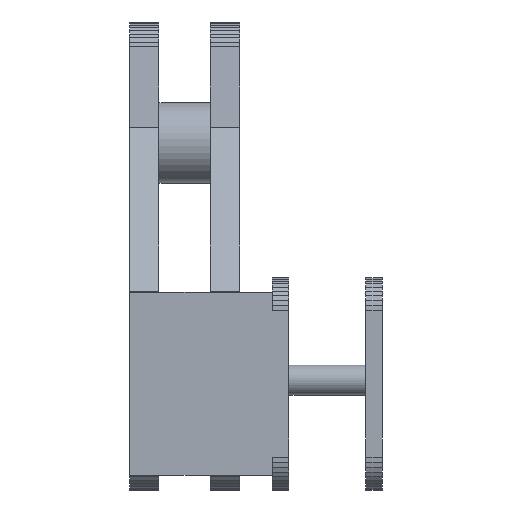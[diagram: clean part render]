
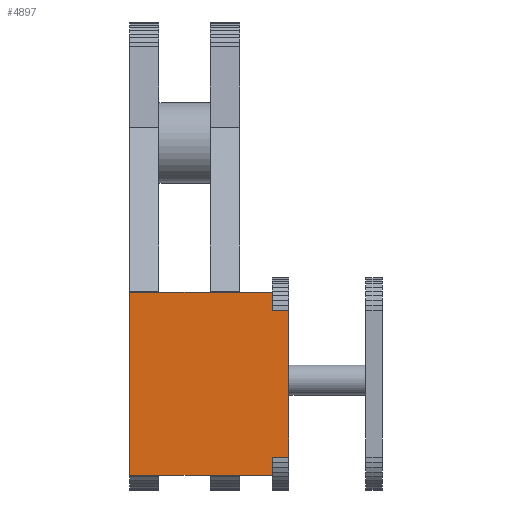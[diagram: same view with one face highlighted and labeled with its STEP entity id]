
A CAD part, left-side view. The second image highlights one B-rep face of the part: STEP entity #4897.
In plain terms, the highlighted planar face has unit normal (-1, 0, 0).
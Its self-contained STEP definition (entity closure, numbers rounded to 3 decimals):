
#3528 = PLANE('',#3529);
#3529 = AXIS2_PLACEMENT_3D('',#3530,#3531,#3532);
#3530 = CARTESIAN_POINT('',(24.,55.7,-235.848));
#3531 = DIRECTION('',(-0.,-1.,-0.));
#3532 = DIRECTION('',(0.,0.,-1.));
#3653 = EDGE_CURVE('',#3654,#3656,#3658,.T.);
#3654 = VERTEX_POINT('',#3655);
#3655 = CARTESIAN_POINT('',(15.,55.7,-215.848));
#3656 = VERTEX_POINT('',#3657);
#3657 = CARTESIAN_POINT('',(15.,55.7,-255.848));
#3658 = SURFACE_CURVE('',#3659,(#3663,#3670),.PCURVE_S1.);
#3659 = LINE('',#3660,#3661);
#3660 = CARTESIAN_POINT('',(15.,55.7,-215.848));
#3661 = VECTOR('',#3662,1.);
#3662 = DIRECTION('',(0.,0.,-1.));
#3663 = PCURVE('',#3528,#3664);
#3664 = DEFINITIONAL_REPRESENTATION('',(#3665),#3669);
#3665 = LINE('',#3666,#3667);
#3666 = CARTESIAN_POINT('',(-20.,-9.));
#3667 = VECTOR('',#3668,1.);
#3668 = DIRECTION('',(1.,0.));
#3669 = ( GEOMETRIC_REPRESENTATION_CONTEXT(2) 
PARAMETRIC_REPRESENTATION_CONTEXT() REPRESENTATION_CONTEXT('2D SPACE',''
  ) );
#3670 = PCURVE('',#3671,#3676);
#3671 = PLANE('',#3672);
#3672 = AXIS2_PLACEMENT_3D('',#3673,#3674,#3675);
#3673 = CARTESIAN_POINT('',(15.,60.2,-215.848));
#3674 = DIRECTION('',(1.,0.,0.));
#3675 = DIRECTION('',(0.,0.,-1.));
#3676 = DEFINITIONAL_REPRESENTATION('',(#3677),#3681);
#3677 = LINE('',#3678,#3679);
#3678 = CARTESIAN_POINT('',(0.,-4.5));
#3679 = VECTOR('',#3680,1.);
#3680 = DIRECTION('',(1.,0.));
#3681 = ( GEOMETRIC_REPRESENTATION_CONTEXT(2) 
PARAMETRIC_REPRESENTATION_CONTEXT() REPRESENTATION_CONTEXT('2D SPACE',''
  ) );
#3699 = PLANE('',#3700);
#3700 = AXIS2_PLACEMENT_3D('',#3701,#3702,#3703);
#3701 = CARTESIAN_POINT('',(15.,60.2,-255.848));
#3702 = DIRECTION('',(0.997,0.,0.078));
#3703 = DIRECTION('',(0.078,0.,-0.997));
#4817 = PLANE('',#4818);
#4818 = AXIS2_PLACEMENT_3D('',#4819,#4820,#4821);
#4819 = CARTESIAN_POINT('',(15.111,60.2,-214.44));
#4820 = DIRECTION('',(0.997,0.,-0.078));
#4821 = DIRECTION('',(-0.078,0.,-0.997));
#4897 = ADVANCED_FACE('',(#4898),#3671,.F.);
#4898 = FACE_BOUND('',#4899,.F.);
#4899 = EDGE_LOOP('',(#4900,#4930,#4951,#4952,#4975,#5003,#5031,#5059));
#4900 = ORIENTED_EDGE('',*,*,#4901,.F.);
#4901 = EDGE_CURVE('',#4902,#4904,#4906,.T.);
#4902 = VERTEX_POINT('',#4903);
#4903 = CARTESIAN_POINT('',(15.,60.2,-215.848));
#4904 = VERTEX_POINT('',#4905);
#4905 = CARTESIAN_POINT('',(15.,60.2,-210.848));
#4906 = SURFACE_CURVE('',#4907,(#4911,#4918),.PCURVE_S1.);
#4907 = LINE('',#4908,#4909);
#4908 = CARTESIAN_POINT('',(15.,60.2,-260.848));
#4909 = VECTOR('',#4910,1.);
#4910 = DIRECTION('',(0.,0.,1.));
#4911 = PCURVE('',#3671,#4912);
#4912 = DEFINITIONAL_REPRESENTATION('',(#4913),#4917);
#4913 = LINE('',#4914,#4915);
#4914 = CARTESIAN_POINT('',(45.,0.));
#4915 = VECTOR('',#4916,1.);
#4916 = DIRECTION('',(-1.,0.));
#4917 = ( GEOMETRIC_REPRESENTATION_CONTEXT(2) 
PARAMETRIC_REPRESENTATION_CONTEXT() REPRESENTATION_CONTEXT('2D SPACE',''
  ) );
#4918 = PCURVE('',#4919,#4924);
#4919 = PLANE('',#4920);
#4920 = AXIS2_PLACEMENT_3D('',#4921,#4922,#4923);
#4921 = CARTESIAN_POINT('',(15.,60.2,-260.848));
#4922 = DIRECTION('',(0.,1.,0.));
#4923 = DIRECTION('',(0.,0.,1.));
#4924 = DEFINITIONAL_REPRESENTATION('',(#4925),#4929);
#4925 = LINE('',#4926,#4927);
#4926 = CARTESIAN_POINT('',(0.,0.));
#4927 = VECTOR('',#4928,1.);
#4928 = DIRECTION('',(1.,0.));
#4929 = ( GEOMETRIC_REPRESENTATION_CONTEXT(2) 
PARAMETRIC_REPRESENTATION_CONTEXT() REPRESENTATION_CONTEXT('2D SPACE',''
  ) );
#4930 = ORIENTED_EDGE('',*,*,#4931,.T.);
#4931 = EDGE_CURVE('',#4902,#3654,#4932,.T.);
#4932 = SURFACE_CURVE('',#4933,(#4937,#4944),.PCURVE_S1.);
#4933 = LINE('',#4934,#4935);
#4934 = CARTESIAN_POINT('',(15.,60.2,-215.848));
#4935 = VECTOR('',#4936,1.);
#4936 = DIRECTION('',(0.,-1.,0.));
#4937 = PCURVE('',#3671,#4938);
#4938 = DEFINITIONAL_REPRESENTATION('',(#4939),#4943);
#4939 = LINE('',#4940,#4941);
#4940 = CARTESIAN_POINT('',(0.,0.));
#4941 = VECTOR('',#4942,1.);
#4942 = DIRECTION('',(0.,-1.));
#4943 = ( GEOMETRIC_REPRESENTATION_CONTEXT(2) 
PARAMETRIC_REPRESENTATION_CONTEXT() REPRESENTATION_CONTEXT('2D SPACE',''
  ) );
#4944 = PCURVE('',#4817,#4945);
#4945 = DEFINITIONAL_REPRESENTATION('',(#4946),#4950);
#4946 = LINE('',#4947,#4948);
#4947 = CARTESIAN_POINT('',(1.412,0.));
#4948 = VECTOR('',#4949,1.);
#4949 = DIRECTION('',(-0.,-1.));
#4950 = ( GEOMETRIC_REPRESENTATION_CONTEXT(2) 
PARAMETRIC_REPRESENTATION_CONTEXT() REPRESENTATION_CONTEXT('2D SPACE',''
  ) );
#4951 = ORIENTED_EDGE('',*,*,#3653,.T.);
#4952 = ORIENTED_EDGE('',*,*,#4953,.F.);
#4953 = EDGE_CURVE('',#4954,#3656,#4956,.T.);
#4954 = VERTEX_POINT('',#4955);
#4955 = CARTESIAN_POINT('',(15.,60.2,-255.848));
#4956 = SURFACE_CURVE('',#4957,(#4961,#4968),.PCURVE_S1.);
#4957 = LINE('',#4958,#4959);
#4958 = CARTESIAN_POINT('',(15.,60.2,-255.848));
#4959 = VECTOR('',#4960,1.);
#4960 = DIRECTION('',(0.,-1.,0.));
#4961 = PCURVE('',#3671,#4962);
#4962 = DEFINITIONAL_REPRESENTATION('',(#4963),#4967);
#4963 = LINE('',#4964,#4965);
#4964 = CARTESIAN_POINT('',(40.,0.));
#4965 = VECTOR('',#4966,1.);
#4966 = DIRECTION('',(0.,-1.));
#4967 = ( GEOMETRIC_REPRESENTATION_CONTEXT(2) 
PARAMETRIC_REPRESENTATION_CONTEXT() REPRESENTATION_CONTEXT('2D SPACE',''
  ) );
#4968 = PCURVE('',#3699,#4969);
#4969 = DEFINITIONAL_REPRESENTATION('',(#4970),#4974);
#4970 = LINE('',#4971,#4972);
#4971 = CARTESIAN_POINT('',(0.,0.));
#4972 = VECTOR('',#4973,1.);
#4973 = DIRECTION('',(0.,-1.));
#4974 = ( GEOMETRIC_REPRESENTATION_CONTEXT(2) 
PARAMETRIC_REPRESENTATION_CONTEXT() REPRESENTATION_CONTEXT('2D SPACE',''
  ) );
#4975 = ORIENTED_EDGE('',*,*,#4976,.F.);
#4976 = EDGE_CURVE('',#4977,#4954,#4979,.T.);
#4977 = VERTEX_POINT('',#4978);
#4978 = CARTESIAN_POINT('',(15.,60.2,-260.848));
#4979 = SURFACE_CURVE('',#4980,(#4984,#4991),.PCURVE_S1.);
#4980 = LINE('',#4981,#4982);
#4981 = CARTESIAN_POINT('',(15.,60.2,-260.848));
#4982 = VECTOR('',#4983,1.);
#4983 = DIRECTION('',(0.,0.,1.));
#4984 = PCURVE('',#3671,#4985);
#4985 = DEFINITIONAL_REPRESENTATION('',(#4986),#4990);
#4986 = LINE('',#4987,#4988);
#4987 = CARTESIAN_POINT('',(45.,0.));
#4988 = VECTOR('',#4989,1.);
#4989 = DIRECTION('',(-1.,0.));
#4990 = ( GEOMETRIC_REPRESENTATION_CONTEXT(2) 
PARAMETRIC_REPRESENTATION_CONTEXT() REPRESENTATION_CONTEXT('2D SPACE',''
  ) );
#4991 = PCURVE('',#4992,#4997);
#4992 = PLANE('',#4993);
#4993 = AXIS2_PLACEMENT_3D('',#4994,#4995,#4996);
#4994 = CARTESIAN_POINT('',(15.,60.2,-260.848));
#4995 = DIRECTION('',(0.,1.,0.));
#4996 = DIRECTION('',(0.,0.,1.));
#4997 = DEFINITIONAL_REPRESENTATION('',(#4998),#5002);
#4998 = LINE('',#4999,#5000);
#4999 = CARTESIAN_POINT('',(0.,0.));
#5000 = VECTOR('',#5001,1.);
#5001 = DIRECTION('',(1.,0.));
#5002 = ( GEOMETRIC_REPRESENTATION_CONTEXT(2) 
PARAMETRIC_REPRESENTATION_CONTEXT() REPRESENTATION_CONTEXT('2D SPACE',''
  ) );
#5003 = ORIENTED_EDGE('',*,*,#5004,.T.);
#5004 = EDGE_CURVE('',#4977,#5005,#5007,.T.);
#5005 = VERTEX_POINT('',#5006);
#5006 = CARTESIAN_POINT('',(15.,99.2,-260.848));
#5007 = SURFACE_CURVE('',#5008,(#5012,#5019),.PCURVE_S1.);
#5008 = LINE('',#5009,#5010);
#5009 = CARTESIAN_POINT('',(15.,60.2,-260.848));
#5010 = VECTOR('',#5011,1.);
#5011 = DIRECTION('',(0.,1.,0.));
#5012 = PCURVE('',#3671,#5013);
#5013 = DEFINITIONAL_REPRESENTATION('',(#5014),#5018);
#5014 = LINE('',#5015,#5016);
#5015 = CARTESIAN_POINT('',(45.,0.));
#5016 = VECTOR('',#5017,1.);
#5017 = DIRECTION('',(0.,1.));
#5018 = ( GEOMETRIC_REPRESENTATION_CONTEXT(2) 
PARAMETRIC_REPRESENTATION_CONTEXT() REPRESENTATION_CONTEXT('2D SPACE',''
  ) );
#5019 = PCURVE('',#5020,#5025);
#5020 = PLANE('',#5021);
#5021 = AXIS2_PLACEMENT_3D('',#5022,#5023,#5024);
#5022 = CARTESIAN_POINT('',(15.,60.2,-260.848));
#5023 = DIRECTION('',(0.,0.,1.));
#5024 = DIRECTION('',(1.,0.,0.));
#5025 = DEFINITIONAL_REPRESENTATION('',(#5026),#5030);
#5026 = LINE('',#5027,#5028);
#5027 = CARTESIAN_POINT('',(0.,0.));
#5028 = VECTOR('',#5029,1.);
#5029 = DIRECTION('',(0.,1.));
#5030 = ( GEOMETRIC_REPRESENTATION_CONTEXT(2) 
PARAMETRIC_REPRESENTATION_CONTEXT() REPRESENTATION_CONTEXT('2D SPACE',''
  ) );
#5031 = ORIENTED_EDGE('',*,*,#5032,.F.);
#5032 = EDGE_CURVE('',#5033,#5005,#5035,.T.);
#5033 = VERTEX_POINT('',#5034);
#5034 = CARTESIAN_POINT('',(15.,99.2,-210.848));
#5035 = SURFACE_CURVE('',#5036,(#5040,#5047),.PCURVE_S1.);
#5036 = LINE('',#5037,#5038);
#5037 = CARTESIAN_POINT('',(15.,99.2,-210.848));
#5038 = VECTOR('',#5039,1.);
#5039 = DIRECTION('',(0.,0.,-1.));
#5040 = PCURVE('',#3671,#5041);
#5041 = DEFINITIONAL_REPRESENTATION('',(#5042),#5046);
#5042 = LINE('',#5043,#5044);
#5043 = CARTESIAN_POINT('',(-5.,39.));
#5044 = VECTOR('',#5045,1.);
#5045 = DIRECTION('',(1.,0.));
#5046 = ( GEOMETRIC_REPRESENTATION_CONTEXT(2) 
PARAMETRIC_REPRESENTATION_CONTEXT() REPRESENTATION_CONTEXT('2D SPACE',''
  ) );
#5047 = PCURVE('',#5048,#5053);
#5048 = PLANE('',#5049);
#5049 = AXIS2_PLACEMENT_3D('',#5050,#5051,#5052);
#5050 = CARTESIAN_POINT('',(15.,99.2,-260.848));
#5051 = DIRECTION('',(0.,1.,0.));
#5052 = DIRECTION('',(0.,0.,1.));
#5053 = DEFINITIONAL_REPRESENTATION('',(#5054),#5058);
#5054 = LINE('',#5055,#5056);
#5055 = CARTESIAN_POINT('',(50.,0.));
#5056 = VECTOR('',#5057,1.);
#5057 = DIRECTION('',(-1.,0.));
#5058 = ( GEOMETRIC_REPRESENTATION_CONTEXT(2) 
PARAMETRIC_REPRESENTATION_CONTEXT() REPRESENTATION_CONTEXT('2D SPACE',''
  ) );
#5059 = ORIENTED_EDGE('',*,*,#5060,.F.);
#5060 = EDGE_CURVE('',#4904,#5033,#5061,.T.);
#5061 = SURFACE_CURVE('',#5062,(#5066,#5073),.PCURVE_S1.);
#5062 = LINE('',#5063,#5064);
#5063 = CARTESIAN_POINT('',(15.,60.2,-210.848));
#5064 = VECTOR('',#5065,1.);
#5065 = DIRECTION('',(0.,1.,0.));
#5066 = PCURVE('',#3671,#5067);
#5067 = DEFINITIONAL_REPRESENTATION('',(#5068),#5072);
#5068 = LINE('',#5069,#5070);
#5069 = CARTESIAN_POINT('',(-5.,0.));
#5070 = VECTOR('',#5071,1.);
#5071 = DIRECTION('',(0.,1.));
#5072 = ( GEOMETRIC_REPRESENTATION_CONTEXT(2) 
PARAMETRIC_REPRESENTATION_CONTEXT() REPRESENTATION_CONTEXT('2D SPACE',''
  ) );
#5073 = PCURVE('',#5074,#5079);
#5074 = PLANE('',#5075);
#5075 = AXIS2_PLACEMENT_3D('',#5076,#5077,#5078);
#5076 = CARTESIAN_POINT('',(15.,60.2,-210.848));
#5077 = DIRECTION('',(0.,0.,1.));
#5078 = DIRECTION('',(1.,0.,0.));
#5079 = DEFINITIONAL_REPRESENTATION('',(#5080),#5084);
#5080 = LINE('',#5081,#5082);
#5081 = CARTESIAN_POINT('',(0.,0.));
#5082 = VECTOR('',#5083,1.);
#5083 = DIRECTION('',(0.,1.));
#5084 = ( GEOMETRIC_REPRESENTATION_CONTEXT(2) 
PARAMETRIC_REPRESENTATION_CONTEXT() REPRESENTATION_CONTEXT('2D SPACE',''
  ) );
